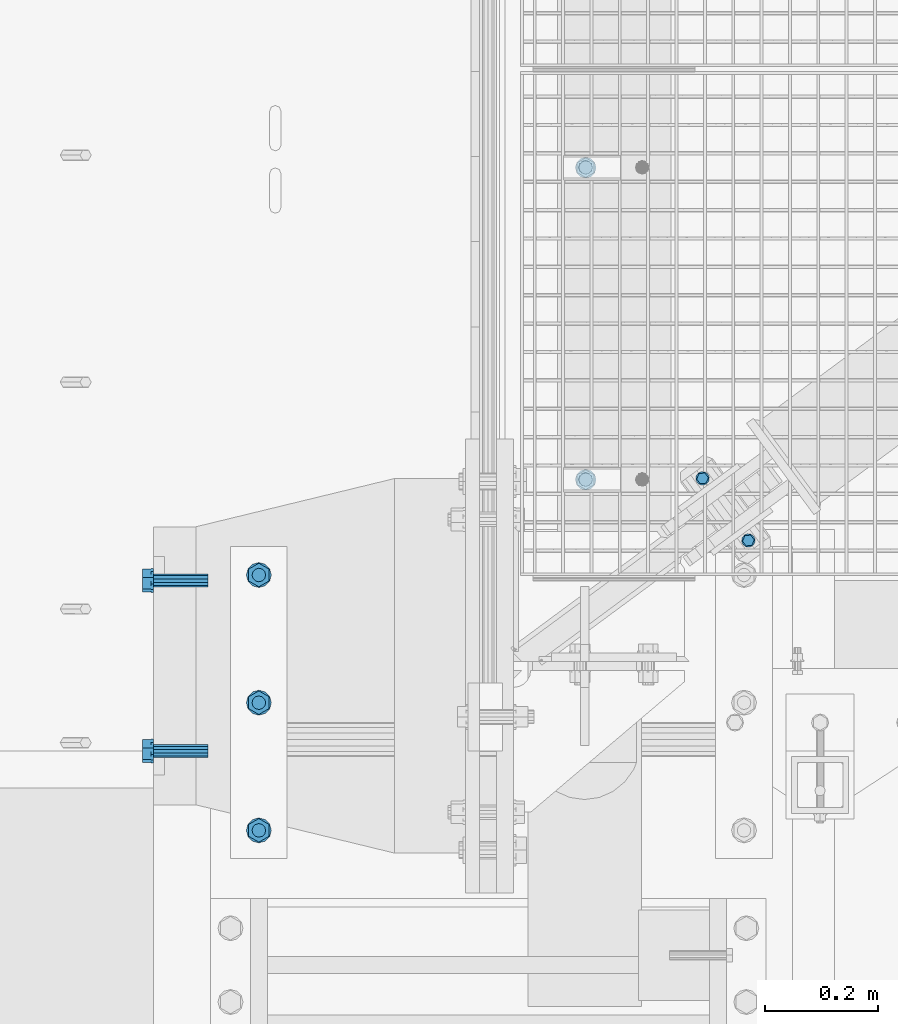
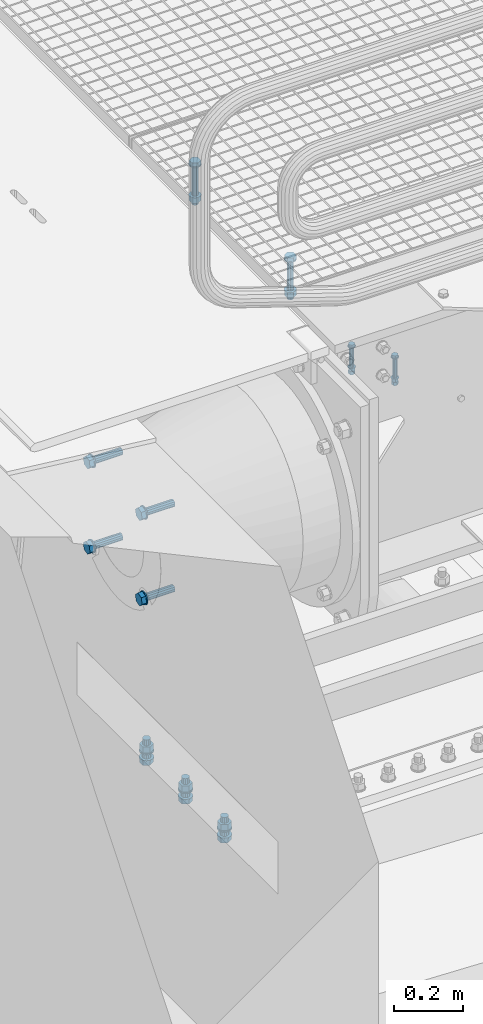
# One storey, part 4 of 1530: 4 mechanical fasteners.
"""IFC2X3 building model written with IfcOpenShell, lengths in millimetres."""

from ifc_helpers import new_model, si_unit, frame, origin_with_axes, place, context, subcontext, project, spatial, faceted_brep, source, transform, mapped, material, type_object, element, save


model = new_model("IFC2X3")

# Units and contexts
model_context = context("Model", 3, precision=1e-05, world=origin_with_axes())
body_context = subcontext(model_context, "Body", "Model", "MODEL_VIEW")
ifc_project = project(units=[si_unit("LENGTHUNIT", "METRE", prefix="MILLI"), si_unit("AREAUNIT", "SQUARE_METRE"), si_unit("VOLUMEUNIT", "CUBIC_METRE"), si_unit("MASSUNIT", "GRAM", prefix="KILO"), si_unit("TIMEUNIT", "SECOND"), si_unit("PLANEANGLEUNIT", "RADIAN"), si_unit("SOLIDANGLEUNIT", "STERADIAN"), si_unit("THERMODYNAMICTEMPERATUREUNIT", "DEGREE_CELSIUS"), si_unit("LUMINOUSINTENSITYUNIT", "LUMEN")], contexts=[model_context])

# Site, building, storey
site_placement = place(None, origin_with_axes())
site = spatial("IfcSite", under=ifc_project, at=site_placement, Name="Brattvåg", CompositionType="ELEMENT")
building_placement = place(site_placement, origin_with_axes())
building = spatial("IfcBuilding", under=site, at=building_placement, Name="Undefined", CompositionType="ELEMENT")
storey_placement = place(building_placement, origin_with_axes())
storey = spatial("IfcBuildingStorey", under=building, at=storey_placement, Name="Undefined", CompositionType="ELEMENT", Elevation=0.0)

# Mechanical fasteners
ifc_material = material(Name="8")
mechanical_fastener_type = type_object("IfcMechanicalFastenerType", Name="Bolt assembly")
shared_shape_1 = source(origin_with_axes(), body_context, "Body", "Brep", [
    faceted_brep([(10.3923048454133, -9.99999999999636, 0.0), (5.19615242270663, -9.99999999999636, 9.0), (-5.19615242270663, -9.99999999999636, 9.0), (-10.3923048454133, -9.99999999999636, 1.27269028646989e-15), (-5.19615242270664, -9.99999999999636, -9.0), (5.19615242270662, -9.99999999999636, -9.0), (5.19615242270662, -2.49999999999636, -9.0), (-5.19615242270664, -2.49999999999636, -9.0), (-10.3923048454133, -2.49999999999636, 1.27269028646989e-15), (-5.19615242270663, -2.49999999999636, 9.0), (5.19615242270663, -2.49999999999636, 9.0), (10.3923048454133, -2.49999999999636, 0.0), (6.0, -2.49999999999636, 0.0), (5.19615242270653, -2.49999999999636, 3.00000000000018), (2.99999999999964, -2.49999999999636, 5.19615242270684), (-6.21801588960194e-13, -2.49999999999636, 6.0), (-3.00000000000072, -2.49999999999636, 5.19615242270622), (-5.19615242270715, -2.49999999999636, 2.9999999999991), (-6.0, -2.49999999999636, -1.24360317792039e-12), (-5.19615242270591, -2.49999999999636, -3.00000000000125), (-2.99999999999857, -2.49999999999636, -5.19615242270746), (1.85874342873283e-12, -2.49999999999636, -6.0), (3.00000000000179, -2.49999999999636, -5.1961524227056), (5.19615242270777, -2.49999999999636, -2.99999999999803), (5.19615242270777, 97.4999999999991, -2.99999999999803), (3.00000000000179, 97.4999999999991, -5.1961524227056), (1.85874342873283e-12, 97.4999999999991, -6.0), (-2.99999999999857, 97.4999999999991, -5.19615242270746), (-5.19615242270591, 97.4999999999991, -3.00000000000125), (-6.0, 97.4999999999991, -1.24360317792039e-12), (-5.19615242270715, 97.4999999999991, 2.9999999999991), (-3.00000000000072, 97.4999999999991, 5.19615242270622), (-6.21801588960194e-13, 97.4999999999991, 6.0), (2.99999999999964, 97.4999999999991, 5.19615242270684), (5.19615242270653, 97.4999999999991, 3.00000000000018), (6.0, 97.4999999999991, 0.0), (12.0, -2.49999999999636, 0.0), (10.3923048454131, -2.49999999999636, 6.00000000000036), (5.99999999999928, -2.49999999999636, 10.3923048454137), (-1.24360317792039e-12, -2.49999999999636, 12.0), (-6.00000000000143, -2.49999999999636, 10.3923048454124), (-10.3923048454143, -2.49999999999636, 5.99999999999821), (-12.0, -2.49999999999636, -2.48720635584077e-12), (-10.3923048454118, -2.49999999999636, -6.00000000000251), (-5.99999999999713, -2.49999999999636, -10.3923048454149), (3.71748685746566e-12, -2.49999999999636, -12.0), (6.00000000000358, -2.49999999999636, -10.3923048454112), (10.3923048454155, -2.49999999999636, -5.99999999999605), (10.3923048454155, 3.63797880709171e-12, -5.99999999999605), (6.00000000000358, 3.63797880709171e-12, -10.3923048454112), (3.71748685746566e-12, 3.63797880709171e-12, -12.0), (-5.99999999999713, 3.63797880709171e-12, -10.3923048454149), (-10.3923048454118, 3.63797880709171e-12, -6.00000000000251), (-12.0, 3.63797880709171e-12, -2.48720635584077e-12), (-10.3923048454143, 3.63797880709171e-12, 5.99999999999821), (-6.00000000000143, 3.63797880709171e-12, 10.3923048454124), (-1.24360317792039e-12, 3.63797880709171e-12, 12.0), (5.99999999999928, 3.63797880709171e-12, 10.3923048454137), (10.3923048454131, 3.63797880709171e-12, 6.00000000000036), (12.0, 3.63797880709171e-12, 0.0), (12.0, 69.9999999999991, 0.0), (10.3923048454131, 69.9999999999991, 6.00000000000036), (5.99999999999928, 69.9999999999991, 10.3923048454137), (-1.24360317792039e-12, 69.9999999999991, 12.0), (-6.00000000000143, 69.9999999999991, 10.3923048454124), (-10.3923048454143, 69.9999999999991, 5.99999999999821), (-12.0, 69.9999999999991, -2.48720635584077e-12), (-10.3923048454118, 69.9999999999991, -6.00000000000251), (-5.99999999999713, 69.9999999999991, -10.3923048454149), (3.71748685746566e-12, 69.9999999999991, -12.0), (6.00000000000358, 69.9999999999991, -10.3923048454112), (10.3923048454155, 69.9999999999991, -5.99999999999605), (10.3923048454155, 72.4999999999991, -5.99999999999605), (6.00000000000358, 72.4999999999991, -10.3923048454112), (3.71748685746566e-12, 72.4999999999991, -12.0), (-5.99999999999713, 72.4999999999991, -10.3923048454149), (-10.3923048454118, 72.4999999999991, -6.00000000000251), (-12.0, 72.4999999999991, -2.48720635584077e-12), (-10.3923048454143, 72.4999999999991, 5.99999999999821), (-6.00000000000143, 72.4999999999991, 10.3923048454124), (-1.24360317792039e-12, 72.4999999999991, 12.0), (5.99999999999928, 72.4999999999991, 10.3923048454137), (10.3923048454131, 72.4999999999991, 6.00000000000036), (12.0, 72.4999999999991, 0.0), (10.3923048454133, 72.4999999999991, 0.0), (5.19615242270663, 72.4999999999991, 9.0), (-5.19615242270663, 72.4999999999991, 9.0), (-10.3923048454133, 72.4999999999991, 1.27269028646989e-15), (-5.19615242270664, 72.4999999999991, -9.0), (5.19615242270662, 72.4999999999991, -9.0), (5.19615242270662, 83.300000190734, -9.0), (-5.19615242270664, 83.300000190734, -9.0), (-10.3923048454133, 83.300000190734, 1.27269028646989e-15), (-5.19615242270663, 83.300000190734, 9.0), (5.19615242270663, 83.300000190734, 9.0), (10.3923048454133, 83.300000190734, 0.0), (9.0, 83.300000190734, 5.19615242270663), (6.36345143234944e-16, 83.300000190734, 10.3923048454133), (-9.0, 83.300000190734, 5.19615242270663), (-9.0, 83.300000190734, -5.19615242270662), (-1.11392563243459e-14, 83.300000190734, -10.3923048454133), (8.99999999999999, 83.300000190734, -5.19615242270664), (8.99999999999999, 94.1000003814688, -5.19615242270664), (-1.11392563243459e-14, 94.1000003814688, -10.3923048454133), (-9.0, 94.1000003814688, -5.19615242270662), (-9.0, 94.1000003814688, 5.19615242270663), (6.36345143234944e-16, 94.1000003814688, 10.3923048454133), (9.0, 94.1000003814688, 5.19615242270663)], [[[0, 1, 2, 3, 4, 5]], [[6, 7, 8, 9, 10, 11]], [[0, 11, 10, 1]], [[1, 10, 9, 2]], [[2, 9, 8, 3]], [[3, 8, 7, 4]], [[4, 7, 6, 5]], [[5, 6, 11, 0]], [[12, 13, 14, 15, 16, 17, 18, 19, 20, 21, 22, 23]], [[24, 25, 26, 27, 28, 29, 30, 31, 32, 33, 34, 35]], [[12, 35, 34, 13]], [[13, 34, 33, 14]], [[14, 33, 32, 15]], [[15, 32, 31, 16]], [[16, 31, 30, 17]], [[17, 30, 29, 18]], [[18, 29, 28, 19]], [[19, 28, 27, 20]], [[20, 27, 26, 21]], [[21, 26, 25, 22]], [[22, 25, 24, 23]], [[23, 24, 35, 12]], [[36, 37, 38, 39, 40, 41, 42, 43, 44, 45, 46, 47]], [[48, 49, 50, 51, 52, 53, 54, 55, 56, 57, 58, 59]], [[36, 59, 58, 37]], [[37, 58, 57, 38]], [[38, 57, 56, 39]], [[39, 56, 55, 40]], [[40, 55, 54, 41]], [[41, 54, 53, 42]], [[42, 53, 52, 43]], [[43, 52, 51, 44]], [[44, 51, 50, 45]], [[45, 50, 49, 46]], [[46, 49, 48, 47]], [[47, 48, 59, 36]], [[60, 61, 62, 63, 64, 65, 66, 67, 68, 69, 70, 71]], [[72, 73, 74, 75, 76, 77, 78, 79, 80, 81, 82, 83]], [[60, 83, 82, 61]], [[61, 82, 81, 62]], [[62, 81, 80, 63]], [[63, 80, 79, 64]], [[64, 79, 78, 65]], [[65, 78, 77, 66]], [[66, 77, 76, 67]], [[67, 76, 75, 68]], [[68, 75, 74, 69]], [[69, 74, 73, 70]], [[70, 73, 72, 71]], [[71, 72, 83, 60]], [[84, 85, 86, 87, 88, 89]], [[90, 91, 92, 93, 94, 95]], [[84, 95, 94, 85]], [[85, 94, 93, 86]], [[86, 93, 92, 87]], [[87, 92, 91, 88]], [[88, 91, 90, 89]], [[89, 90, 95, 84]], [[96, 97, 98, 99, 100, 101]], [[102, 103, 104, 105, 106, 107]], [[96, 107, 106, 97]], [[97, 106, 105, 98]], [[98, 105, 104, 99]], [[99, 104, 103, 100]], [[100, 103, 102, 101]], [[101, 102, 107, 96]]]),
    faceted_brep([(7.0, -9.09494701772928e-13, 0.0), (6.06217782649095, -9.09494701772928e-13, 3.50000000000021), (3.49999999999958, -9.09494701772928e-13, 6.06217782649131), (-7.25435187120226e-13, -9.09494701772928e-13, 7.0), (-3.50000000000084, -9.09494701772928e-13, 6.06217782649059), (-6.06217782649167, -9.09494701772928e-13, 3.49999999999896), (-7.0, -9.09494701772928e-13, -1.45087037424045e-12), (-6.06217782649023, -9.09494701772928e-13, -3.50000000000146), (-3.49999999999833, -9.09494701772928e-13, -6.06217782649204), (2.1685340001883e-12, -9.09494701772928e-13, -7.0), (3.50000000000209, -9.09494701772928e-13, -6.06217782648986), (6.0621778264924, -9.09494701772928e-13, -3.4999999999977), (6.0621778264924, 70.0999999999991, -3.4999999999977), (3.50000000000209, 70.0999999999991, -6.06217782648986), (2.1685340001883e-12, 70.0999999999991, -7.0), (-3.49999999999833, 70.0999999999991, -6.06217782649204), (-6.06217782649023, 70.0999999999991, -3.50000000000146), (-7.0, 70.0999999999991, -1.45087037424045e-12), (-6.06217782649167, 70.0999999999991, 3.49999999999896), (-3.50000000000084, 70.0999999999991, 6.06217782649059), (-7.25435187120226e-13, 70.0999999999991, 7.0), (3.49999999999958, 70.0999999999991, 6.06217782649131), (6.06217782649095, 70.0999999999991, 3.50000000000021), (7.0, 70.0999999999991, 0.0)], [[[0, 1, 2, 3, 4, 5, 6, 7, 8, 9, 10, 11]], [[12, 13, 14, 15, 16, 17, 18, 19, 20, 21, 22, 23]], [[0, 23, 22, 1]], [[1, 22, 21, 2]], [[2, 21, 20, 3]], [[3, 20, 19, 4]], [[4, 19, 18, 5]], [[5, 18, 17, 6]], [[6, 17, 16, 7]], [[7, 16, 15, 8]], [[8, 15, 14, 9]], [[9, 14, 13, 10]], [[10, 13, 12, 11]], [[11, 12, 23, 0]]]),
])
mechanical_fastener_1_placement = place(storey_placement, frame((423.687654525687, 220.865950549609, -410.000000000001), z_axis=(-0.804538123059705, -0.593901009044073, 0.0), x_axis=(-0.593901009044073, 0.804538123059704, 0.0)))
element("IfcMechanicalFastener", 1, at=mechanical_fastener_1_placement, inside=storey, type_object=mechanical_fastener_type, material=ifc_material, Name="Bolt assembly", NominalDiameter=12.0, NominalLength=100.0, context=body_context, shape_type="MappedRepresentation", body=[
    mapped(shared_shape_1, transform((0.0, 0.0, 0.0))),
    mapped(shared_shape_1, transform((136.0, 0.0, 0.0))),
])
shared_shape_2 = source(origin_with_axes(), body_context, "Body", "Brep", [
    faceted_brep([(17.3205080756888, -10.5, 0.0), (8.66025403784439, -10.5, 15.0), (-8.66025403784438, -10.5, 15.0), (-17.3205080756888, -10.5, 2.12115047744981e-15), (-8.66025403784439, -10.5, -15.0), (8.66025403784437, -10.5, -15.0), (8.66025403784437, 2.0, -15.0), (-8.66025403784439, 2.0, -15.0), (-17.3205080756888, 2.0, 2.12115047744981e-15), (-8.66025403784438, 2.0, 15.0), (8.66025403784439, 2.0, 15.0), (17.3205080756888, 2.0, 0.0), (10.0, 2.0, 0.0), (8.66025403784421, 2.0, 5.0000000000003), (4.9999999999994, 2.0, 8.66025403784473), (-1.03633598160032e-12, 2.0, 10.0), (-5.00000000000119, 2.0, 8.6602540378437), (-8.66025403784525, 2.0, 4.99999999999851), (-10.0, 2.0, -2.07267196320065e-12), (-8.66025403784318, 2.0, -5.00000000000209), (-4.99999999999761, 2.0, -8.66025403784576), (3.09790571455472e-12, 2.0, -10.0), (5.00000000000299, 2.0, -8.66025403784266), (8.66025403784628, 2.0, -4.99999999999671), (8.66025403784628, 142.0, -4.99999999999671), (5.00000000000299, 142.0, -8.66025403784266), (3.09790571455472e-12, 142.0, -10.0), (-4.99999999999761, 142.0, -8.66025403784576), (-8.66025403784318, 142.0, -5.00000000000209), (-10.0, 142.0, -2.07267196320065e-12), (-8.66025403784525, 142.0, 4.99999999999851), (-5.00000000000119, 142.0, 8.6602540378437), (-1.03633598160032e-12, 142.0, 10.0), (4.9999999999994, 142.0, 8.66025403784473), (8.66025403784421, 142.0, 5.0000000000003), (10.0, 142.0, 0.0), (18.5, 2.0, 0.0), (16.0214699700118, 2.0, 9.25000000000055), (9.2499999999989, 2.0, 16.0214699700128), (-1.9172215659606e-12, 2.0, 18.5), (-9.25000000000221, 2.0, 16.0214699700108), (-16.0214699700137, 2.0, 9.24999999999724), (-18.5, 2.0, -3.83444313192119e-12), (-16.0214699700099, 2.0, -9.25000000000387), (-9.24999999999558, 2.0, -16.0214699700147), (5.73112557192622e-12, 2.0, -18.5), (9.25000000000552, 2.0, -16.0214699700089), (16.0214699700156, 2.0, -9.24999999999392), (16.0214699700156, 5.0, -9.24999999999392), (9.25000000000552, 5.0, -16.0214699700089), (5.73112557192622e-12, 5.0, -18.5), (-9.24999999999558, 5.0, -16.0214699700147), (-16.0214699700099, 5.0, -9.25000000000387), (-18.5, 5.0, -3.83444313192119e-12), (-16.0214699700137, 5.0, 9.24999999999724), (-9.25000000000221, 5.0, 16.0214699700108), (-1.9172215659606e-12, 5.0, 18.5), (9.2499999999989, 5.0, 16.0214699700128), (16.0214699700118, 5.0, 9.25000000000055), (18.5, 5.0, 0.0), (18.5, 109.998931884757, 0.0), (16.0214699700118, 109.998931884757, 9.25000000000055), (9.2499999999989, 109.998931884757, 16.0214699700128), (-1.9172215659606e-12, 109.998931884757, 18.5), (-9.25000000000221, 109.998931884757, 16.0214699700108), (-16.0214699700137, 109.998931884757, 9.24999999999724), (-18.5, 109.998931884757, -3.83444313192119e-12), (-16.0214699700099, 109.998931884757, -9.25000000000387), (-9.24999999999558, 109.998931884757, -16.0214699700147), (5.73112557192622e-12, 109.998931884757, -18.5), (9.25000000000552, 109.998931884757, -16.0214699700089), (16.0214699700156, 109.998931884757, -9.24999999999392), (16.0214699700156, 112.998931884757, -9.24999999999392), (9.25000000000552, 112.998931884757, -16.0214699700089), (5.73112557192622e-12, 112.998931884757, -18.5), (-9.24999999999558, 112.998931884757, -16.0214699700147), (-16.0214699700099, 112.998931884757, -9.25000000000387), (-18.5, 112.998931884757, -3.83444313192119e-12), (-16.0214699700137, 112.998931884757, 9.24999999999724), (-9.25000000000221, 112.998931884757, 16.0214699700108), (-1.9172215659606e-12, 112.998931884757, 18.5), (9.2499999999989, 112.998931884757, 16.0214699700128), (16.0214699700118, 112.998931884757, 9.25000000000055), (18.5, 112.998931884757, 0.0), (17.3205080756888, 112.998931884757, 0.0), (8.66025403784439, 112.998931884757, 15.0), (-8.66025403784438, 112.998931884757, 15.0), (-17.3205080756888, 112.998931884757, 2.12115047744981e-15), (-8.66025403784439, 112.998931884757, -15.0), (8.66025403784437, 112.998931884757, -15.0), (8.66025403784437, 130.998931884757, -15.0), (-8.66025403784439, 130.998931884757, -15.0), (-17.3205080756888, 130.998931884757, 2.12115047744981e-15), (-8.66025403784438, 130.998931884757, 15.0), (8.66025403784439, 130.998931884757, 15.0), (17.3205080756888, 130.998931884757, 0.0)], [[[0, 1, 2, 3, 4, 5]], [[6, 7, 8, 9, 10, 11]], [[0, 11, 10, 1]], [[1, 10, 9, 2]], [[2, 9, 8, 3]], [[3, 8, 7, 4]], [[4, 7, 6, 5]], [[5, 6, 11, 0]], [[12, 13, 14, 15, 16, 17, 18, 19, 20, 21, 22, 23]], [[24, 25, 26, 27, 28, 29, 30, 31, 32, 33, 34, 35]], [[12, 35, 34, 13]], [[13, 34, 33, 14]], [[14, 33, 32, 15]], [[15, 32, 31, 16]], [[16, 31, 30, 17]], [[17, 30, 29, 18]], [[18, 29, 28, 19]], [[19, 28, 27, 20]], [[20, 27, 26, 21]], [[21, 26, 25, 22]], [[22, 25, 24, 23]], [[23, 24, 35, 12]], [[36, 37, 38, 39, 40, 41, 42, 43, 44, 45, 46, 47]], [[48, 49, 50, 51, 52, 53, 54, 55, 56, 57, 58, 59]], [[36, 59, 58, 37]], [[37, 58, 57, 38]], [[38, 57, 56, 39]], [[39, 56, 55, 40]], [[40, 55, 54, 41]], [[41, 54, 53, 42]], [[42, 53, 52, 43]], [[43, 52, 51, 44]], [[44, 51, 50, 45]], [[45, 50, 49, 46]], [[46, 49, 48, 47]], [[47, 48, 59, 36]], [[60, 61, 62, 63, 64, 65, 66, 67, 68, 69, 70, 71]], [[72, 73, 74, 75, 76, 77, 78, 79, 80, 81, 82, 83]], [[60, 83, 82, 61]], [[61, 82, 81, 62]], [[62, 81, 80, 63]], [[63, 80, 79, 64]], [[64, 79, 78, 65]], [[65, 78, 77, 66]], [[66, 77, 76, 67]], [[67, 76, 75, 68]], [[68, 75, 74, 69]], [[69, 74, 73, 70]], [[70, 73, 72, 71]], [[71, 72, 83, 60]], [[84, 85, 86, 87, 88, 89]], [[90, 91, 92, 93, 94, 95]], [[84, 95, 94, 85]], [[85, 94, 93, 86]], [[86, 93, 92, 87]], [[87, 92, 91, 88]], [[88, 91, 90, 89]], [[89, 90, 95, 84]]]),
])
mechanical_fastener_2_placement = place(storey_placement, frame((137.004779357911, 327.919311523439, -25.0), z_axis=(-1.0, 1.99999855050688e-09, 0.0), x_axis=(0.0, 1.0, 0.0)))
element("IfcMechanicalFastener", 2, at=mechanical_fastener_2_placement, inside=storey, type_object=mechanical_fastener_type, material=ifc_material, Name="Bolt assembly", NominalDiameter=20.0, NominalLength=140.0, context=body_context, shape_type="MappedRepresentation", body=[
    mapped(shared_shape_2, transform((0.0, 0.0, 0.0))),
    mapped(shared_shape_2, transform((549.999999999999, 0.0, 0.0))),
])
shared_shape_3 = source(origin_with_axes(), body_context, "Body", "Brep", [
    faceted_brep([(20.7846096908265, -39.0003051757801, 0.0), (10.3923048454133, -39.0003051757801, 18.0), (-10.3923048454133, -39.0003051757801, 18.0), (-20.7846096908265, -39.0003051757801, 2.54538057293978e-15), (-10.3923048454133, -39.0003051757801, -18.0), (10.3923048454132, -39.0003051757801, -18.0), (10.3923048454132, -24.0003051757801, -18.0), (-10.3923048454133, -24.0003051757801, -18.0), (-20.7846096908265, -24.0003051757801, 2.54538057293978e-15), (-10.3923048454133, -24.0003051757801, 18.0), (10.3923048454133, -24.0003051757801, 18.0), (20.7846096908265, -24.0003051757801, 0.0), (12.0, -24.0003051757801, 0.0), (10.3923048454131, -24.0003051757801, 6.00000000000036), (5.99999999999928, -24.0003051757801, 10.3923048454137), (-1.24360317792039e-12, -24.0003051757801, 12.0), (-6.00000000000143, -24.0003051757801, 10.3923048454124), (-10.3923048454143, -24.0003051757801, 5.99999999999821), (-12.0, -24.0003051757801, -2.48720635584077e-12), (-10.3923048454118, -24.0003051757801, -6.00000000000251), (-5.99999999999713, -24.0003051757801, -10.3923048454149), (3.71748685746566e-12, -24.0003051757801, -12.0), (6.00000000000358, -24.0003051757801, -10.3923048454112), (10.3923048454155, -24.0003051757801, -5.99999999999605), (10.3923048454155, 45.9996948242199, -5.99999999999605), (6.00000000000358, 45.9996948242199, -10.3923048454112), (3.71748685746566e-12, 45.9996948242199, -12.0), (-5.99999999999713, 45.9996948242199, -10.3923048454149), (-10.3923048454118, 45.9996948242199, -6.00000000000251), (-12.0, 45.9996948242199, -2.48720635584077e-12), (-10.3923048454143, 45.9996948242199, 5.99999999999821), (-6.00000000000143, 45.9996948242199, 10.3923048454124), (-1.24360317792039e-12, 45.9996948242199, 12.0), (5.99999999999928, 45.9996948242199, 10.3923048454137), (10.3923048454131, 45.9996948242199, 6.00000000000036), (12.0, 45.9996948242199, 0.0), (22.0, -24.0003051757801, 0.0), (19.0525588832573, -24.0003051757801, 11.0000000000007), (10.9999999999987, -24.0003051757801, 19.0525588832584), (-2.27993915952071e-12, -24.0003051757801, 22.0), (-11.0000000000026, -24.0003051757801, 19.0525588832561), (-19.0525588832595, -24.0003051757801, 10.9999999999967), (-22.0, -24.0003051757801, -4.55987831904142e-12), (-19.052558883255, -24.0003051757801, -11.0000000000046), (-10.9999999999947, -24.0003051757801, -19.0525588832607), (6.81539257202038e-12, -24.0003051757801, -22.0), (11.0000000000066, -24.0003051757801, -19.0525588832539), (19.0525588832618, -24.0003051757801, -10.9999999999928), (19.0525588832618, -20.0003051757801, -10.9999999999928), (11.0000000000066, -20.0003051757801, -19.0525588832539), (6.81539257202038e-12, -20.0003051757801, -22.0), (-10.9999999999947, -20.0003051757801, -19.0525588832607), (-19.052558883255, -20.0003051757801, -11.0000000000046), (-22.0, -20.0003051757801, -4.55987831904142e-12), (-19.0525588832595, -20.0003051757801, 10.9999999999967), (-11.0000000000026, -20.0003051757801, 19.0525588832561), (-2.27993915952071e-12, -20.0003051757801, 22.0), (10.9999999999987, -20.0003051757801, 19.0525588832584), (19.0525588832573, -20.0003051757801, 11.0000000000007), (22.0, -20.0003051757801, 0.0), (22.0, -0.000305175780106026, 0.0), (19.0525588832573, -0.000305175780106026, 11.0000000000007), (10.9999999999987, -0.000305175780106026, 19.0525588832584), (-2.27993915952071e-12, -0.000305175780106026, 22.0), (-11.0000000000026, -0.000305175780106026, 19.0525588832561), (-19.0525588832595, -0.000305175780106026, 10.9999999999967), (-22.0, -0.000305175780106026, -4.55987831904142e-12), (-19.052558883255, -0.000305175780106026, -11.0000000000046), (-10.9999999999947, -0.000305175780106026, -19.0525588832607), (6.81539257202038e-12, -0.000305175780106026, -22.0), (11.0000000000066, -0.000305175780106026, -19.0525588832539), (19.0525588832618, -0.000305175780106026, -10.9999999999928), (19.0525588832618, 3.99969482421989, -10.9999999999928), (11.0000000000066, 3.99969482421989, -19.0525588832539), (6.81539257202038e-12, 3.99969482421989, -22.0), (-10.9999999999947, 3.99969482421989, -19.0525588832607), (-19.052558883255, 3.99969482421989, -11.0000000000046), (-22.0, 3.99969482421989, -4.55987831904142e-12), (-19.0525588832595, 3.99969482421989, 10.9999999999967), (-11.0000000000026, 3.99969482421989, 19.0525588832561), (-2.27993915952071e-12, 3.99969482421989, 22.0), (10.9999999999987, 3.99969482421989, 19.0525588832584), (19.0525588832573, 3.99969482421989, 11.0000000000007), (22.0, 3.99969482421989, 0.0), (20.7846096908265, 3.99969482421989, 0.0), (10.3923048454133, 3.99969482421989, 18.0), (-10.3923048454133, 3.99969482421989, 18.0), (-20.7846096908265, 3.99969482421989, 2.54538057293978e-15), (-10.3923048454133, 3.99969482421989, -18.0), (10.3923048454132, 3.99969482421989, -18.0), (10.3923048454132, 25.4996948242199, -18.0), (-10.3923048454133, 25.4996948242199, -18.0), (-20.7846096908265, 25.4996948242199, 2.54538057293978e-15), (-10.3923048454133, 25.4996948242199, 18.0), (10.3923048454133, 25.4996948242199, 18.0), (20.7846096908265, 25.4996948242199, 0.0)], [[[0, 1, 2, 3, 4, 5]], [[6, 7, 8, 9, 10, 11]], [[0, 11, 10, 1]], [[1, 10, 9, 2]], [[2, 9, 8, 3]], [[3, 8, 7, 4]], [[4, 7, 6, 5]], [[5, 6, 11, 0]], [[12, 13, 14, 15, 16, 17, 18, 19, 20, 21, 22, 23]], [[24, 25, 26, 27, 28, 29, 30, 31, 32, 33, 34, 35]], [[12, 35, 34, 13]], [[13, 34, 33, 14]], [[14, 33, 32, 15]], [[15, 32, 31, 16]], [[16, 31, 30, 17]], [[17, 30, 29, 18]], [[18, 29, 28, 19]], [[19, 28, 27, 20]], [[20, 27, 26, 21]], [[21, 26, 25, 22]], [[22, 25, 24, 23]], [[23, 24, 35, 12]], [[36, 37, 38, 39, 40, 41, 42, 43, 44, 45, 46, 47]], [[48, 49, 50, 51, 52, 53, 54, 55, 56, 57, 58, 59]], [[36, 59, 58, 37]], [[37, 58, 57, 38]], [[38, 57, 56, 39]], [[39, 56, 55, 40]], [[40, 55, 54, 41]], [[41, 54, 53, 42]], [[42, 53, 52, 43]], [[43, 52, 51, 44]], [[44, 51, 50, 45]], [[45, 50, 49, 46]], [[46, 49, 48, 47]], [[47, 48, 59, 36]], [[60, 61, 62, 63, 64, 65, 66, 67, 68, 69, 70, 71]], [[72, 73, 74, 75, 76, 77, 78, 79, 80, 81, 82, 83]], [[60, 83, 82, 61]], [[61, 82, 81, 62]], [[62, 81, 80, 63]], [[63, 80, 79, 64]], [[64, 79, 78, 65]], [[65, 78, 77, 66]], [[66, 77, 76, 67]], [[67, 76, 75, 68]], [[68, 75, 74, 69]], [[69, 74, 73, 70]], [[70, 73, 72, 71]], [[71, 72, 83, 60]], [[84, 85, 86, 87, 88, 89]], [[90, 91, 92, 93, 94, 95]], [[84, 95, 94, 85]], [[85, 94, 93, 86]], [[86, 93, 92, 87]], [[87, 92, 91, 88]], [[88, 91, 90, 89]], [[89, 90, 95, 84]]]),
    faceted_brep([(13.0, -20.0003051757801, 0.0), (11.2583302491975, -20.0003051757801, 6.50000000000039), (6.49999999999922, -20.0003051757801, 11.2583302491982), (-1.34723677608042e-12, -20.0003051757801, 13.0), (-6.50000000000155, -20.0003051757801, 11.2583302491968), (-11.2583302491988, -20.0003051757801, 6.49999999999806), (-13.0, -20.0003051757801, -2.69447355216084e-12), (-11.2583302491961, -20.0003051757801, -6.50000000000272), (-6.4999999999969, -20.0003051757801, -11.2583302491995), (4.02727742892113e-12, -20.0003051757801, -13.0), (6.50000000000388, -20.0003051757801, -11.2583302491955), (11.2583302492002, -20.0003051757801, -6.49999999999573), (11.2583302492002, 0.0996948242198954, -6.49999999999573), (6.50000000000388, 0.0996948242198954, -11.2583302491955), (4.02727742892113e-12, 0.0996948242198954, -13.0), (-6.4999999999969, 0.0996948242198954, -11.2583302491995), (-11.2583302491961, 0.0996948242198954, -6.50000000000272), (-13.0, 0.0996948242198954, -2.69447355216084e-12), (-11.2583302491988, 0.0996948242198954, 6.49999999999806), (-6.50000000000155, 0.0996948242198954, 11.2583302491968), (-1.34723677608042e-12, 0.0996948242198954, 13.0), (6.49999999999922, 0.0996948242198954, 11.2583302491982), (11.2583302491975, 0.0996948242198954, 6.50000000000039), (13.0, 0.0996948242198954, 0.0)], [[[0, 1, 2, 3, 4, 5, 6, 7, 8, 9, 10, 11]], [[12, 13, 14, 15, 16, 17, 18, 19, 20, 21, 22, 23]], [[0, 23, 22, 1]], [[1, 22, 21, 2]], [[2, 21, 20, 3]], [[3, 20, 19, 4]], [[4, 19, 18, 5]], [[5, 18, 17, 6]], [[6, 17, 16, 7]], [[7, 16, 15, 8]], [[8, 15, 14, 9]], [[9, 14, 13, 10]], [[10, 13, 12, 11]], [[11, 12, 23, 0]]]),
])
mechanical_fastener_3_placement = place(storey_placement, frame((-438.999490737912, 160.001182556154, -1458.00001144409), z_axis=(-1.0, 1.99999855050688e-09, 0.0), x_axis=(0.0, -1.0, 0.0)))
element("IfcMechanicalFastener", 3, at=mechanical_fastener_3_placement, inside=storey, type_object=mechanical_fastener_type, material=ifc_material, Name="Bolt assembly", NominalDiameter=24.0, NominalLength=70.0, context=body_context, shape_type="MappedRepresentation", body=[
    mapped(shared_shape_3, transform((0.0, 0.0, 0.0))),
    mapped(shared_shape_3, transform((225.0, 0.0, 0.0))),
    mapped(shared_shape_3, transform((450.0, 0.0, 0.0))),
])
shared_shape_4 = source(origin_with_axes(), body_context, "Body", "Brep", [
    faceted_brep([(20.7846096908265, -19.0, 0.0), (10.3923048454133, -19.0, 18.0), (-10.3923048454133, -19.0, 18.0), (-20.7846096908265, -19.0, 2.54538057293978e-15), (-10.3923048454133, -19.0, -18.0), (10.3923048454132, -19.0, -18.0), (10.3923048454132, -4.0, -18.0), (-10.3923048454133, -4.0, -18.0), (-20.7846096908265, -4.0, 2.54538057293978e-15), (-10.3923048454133, -4.0, 18.0), (10.3923048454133, -4.0, 18.0), (20.7846096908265, -4.0, 0.0), (12.0, -4.0, 0.0), (10.3923048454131, -4.0, 6.00000000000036), (5.99999999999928, -4.0, 10.3923048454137), (-1.24360317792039e-12, -4.0, 12.0), (-6.00000000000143, -4.0, 10.3923048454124), (-10.3923048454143, -4.0, 5.99999999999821), (-12.0, -4.0, -2.48720635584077e-12), (-10.3923048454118, -4.0, -6.00000000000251), (-5.99999999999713, -4.0, -10.3923048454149), (3.71748685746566e-12, -4.0, -12.0), (6.00000000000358, -4.0, -10.3923048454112), (10.3923048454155, -4.0, -5.99999999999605), (10.3923048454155, 96.0, -5.99999999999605), (6.00000000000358, 96.0, -10.3923048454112), (3.71748685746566e-12, 96.0, -12.0), (-5.99999999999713, 96.0, -10.3923048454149), (-10.3923048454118, 96.0, -6.00000000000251), (-12.0, 96.0, -2.48720635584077e-12), (-10.3923048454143, 96.0, 5.99999999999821), (-6.00000000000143, 96.0, 10.3923048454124), (-1.24360317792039e-12, 96.0, 12.0), (5.99999999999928, 96.0, 10.3923048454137), (10.3923048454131, 96.0, 6.00000000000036), (12.0, 96.0, 0.0), (22.0, -4.0, 0.0), (19.0525588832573, -4.0, 11.0000000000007), (10.9999999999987, -4.0, 19.0525588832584), (-2.27993915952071e-12, -4.0, 22.0), (-11.0000000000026, -4.0, 19.0525588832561), (-19.0525588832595, -4.0, 10.9999999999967), (-22.0, -4.0, -4.55987831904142e-12), (-19.052558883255, -4.0, -11.0000000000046), (-10.9999999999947, -4.0, -19.0525588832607), (6.81539257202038e-12, -4.0, -22.0), (11.0000000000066, -4.0, -19.0525588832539), (19.0525588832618, -4.0, -10.9999999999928), (19.0525588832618, 0.0, -10.9999999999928), (11.0000000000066, 0.0, -19.0525588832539), (6.81539257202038e-12, 0.0, -22.0), (-10.9999999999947, 0.0, -19.0525588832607), (-19.052558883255, 0.0, -11.0000000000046), (-22.0, 0.0, -4.55987831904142e-12), (-19.0525588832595, 0.0, 10.9999999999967), (-11.0000000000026, 0.0, 19.0525588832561), (-2.27993915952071e-12, 0.0, 22.0), (10.9999999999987, 0.0, 19.0525588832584), (19.0525588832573, 0.0, 11.0000000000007), (22.0, 0.0, 0.0)], [[[0, 1, 2, 3, 4, 5]], [[6, 7, 8, 9, 10, 11]], [[0, 11, 10, 1]], [[1, 10, 9, 2]], [[2, 9, 8, 3]], [[3, 8, 7, 4]], [[4, 7, 6, 5]], [[5, 6, 11, 0]], [[12, 13, 14, 15, 16, 17, 18, 19, 20, 21, 22, 23]], [[24, 25, 26, 27, 28, 29, 30, 31, 32, 33, 34, 35]], [[12, 35, 34, 13]], [[13, 34, 33, 14]], [[14, 33, 32, 15]], [[15, 32, 31, 16]], [[16, 31, 30, 17]], [[17, 30, 29, 18]], [[18, 29, 28, 19]], [[19, 28, 27, 20]], [[20, 27, 26, 21]], [[21, 26, 25, 22]], [[22, 25, 24, 23]], [[23, 24, 35, 12]], [[36, 37, 38, 39, 40, 41, 42, 43, 44, 45, 46, 47]], [[48, 49, 50, 51, 52, 53, 54, 55, 56, 57, 58, 59]], [[36, 59, 58, 37]], [[37, 58, 57, 38]], [[38, 57, 56, 39]], [[39, 56, 55, 40]], [[40, 55, 54, 41]], [[41, 54, 53, 42]], [[42, 53, 52, 43]], [[43, 52, 51, 44]], [[44, 51, 50, 45]], [[45, 50, 49, 46]], [[46, 49, 48, 47]], [[47, 48, 59, 36]]]),
])
mechanical_fastener_4_placement = place(storey_placement, frame((-625.003913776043, -0.00473454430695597, -514.998199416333), z_axis=(3.30839999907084e-05, -0.70710678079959, -0.707106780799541), x_axis=(1.00000053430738e-09, 0.707106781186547, -0.707106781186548)))
element("IfcMechanicalFastener", 4, at=mechanical_fastener_4_placement, inside=storey, type_object=mechanical_fastener_type, material=ifc_material, Name="Bolt assembly", NominalDiameter=24.0, NominalLength=100.0, context=body_context, shape_type="MappedRepresentation", body=[
    mapped(shared_shape_4, transform((212.500000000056, 1.09366737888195e-10, 5.72981662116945e-11))),
    mapped(shared_shape_4, transform((2.5465851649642e-11, -8.85620465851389e-11, 212.499999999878))),
    mapped(shared_shape_4, transform((-212.500000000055, -1.09480424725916e-10, -5.82076609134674e-11))),
    mapped(shared_shape_4, transform((-2.36468622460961e-11, 8.84483597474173e-11, -212.49999999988))),
])

save(model, "model.ifc")
